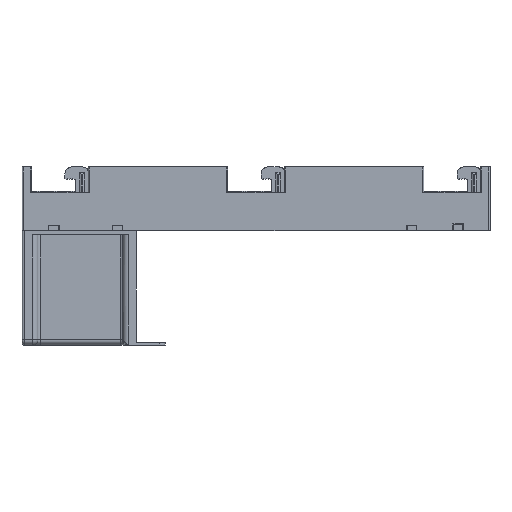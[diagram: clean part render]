
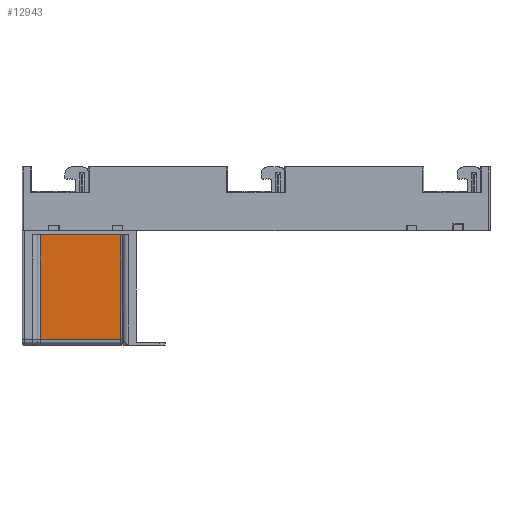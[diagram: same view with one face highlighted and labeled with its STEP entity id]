
A CAD part, left-side view. The second image highlights one B-rep face of the part: STEP entity #12943.
In plain terms, the highlighted planar face has unit normal (-1, 0, 0).
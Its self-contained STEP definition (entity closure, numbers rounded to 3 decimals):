
#157 = FACE_OUTER_BOUND ( 'NONE', #47265, .T. ) ;
#7022 = DIRECTION ( 'NONE',  ( 0., -1., 0. ) ) ;
#8774 = CARTESIAN_POINT ( 'NONE',  ( -129.621, 142.355, 308.5 ) ) ;
#9296 = DIRECTION ( 'NONE',  ( 0., 0., 1. ) ) ;
#9618 = CARTESIAN_POINT ( 'NONE',  ( -129.621, 119.355, 407.5 ) ) ;
#9787 = DIRECTION ( 'NONE',  ( 1., 0., 0. ) ) ;
#12943 = ADVANCED_FACE ( 'NONE', ( #157 ), #38226, .F. ) ;
#17624 = ORIENTED_EDGE ( 'NONE', *, *, #34164, .T. ) ;
#21588 = LINE ( 'NONE', #9618, #43239 ) ;
#24271 = DIRECTION ( 'NONE',  ( 0., -1., 0. ) ) ;
#27803 = AXIS2_PLACEMENT_3D ( 'NONE', #30693, #9787, #24271 ) ;
#29876 = VECTOR ( 'NONE', #36030, 1000. ) ;
#30559 = VERTEX_POINT ( 'NONE', #85680 ) ;
#30612 = DIRECTION ( 'NONE',  ( 0., 0., 1. ) ) ;
#30693 = CARTESIAN_POINT ( 'NONE',  ( -129.621, 142.355, 407.5 ) ) ;
#34164 = EDGE_CURVE ( 'NONE', #80340, #30559, #21588, .T. ) ;
#36030 = DIRECTION ( 'NONE',  ( 0., 1., 0. ) ) ;
#36207 = EDGE_CURVE ( 'NONE', #60649, #51723, #46477, .T. ) ;
#38226 = PLANE ( 'NONE',  #27803 ) ;
#39232 = VECTOR ( 'NONE', #7022, 1000. ) ;
#43239 = VECTOR ( 'NONE', #9296, 1000. ) ;
#46477 = LINE ( 'NONE', #72076, #64977 ) ;
#47265 = EDGE_LOOP ( 'NONE', ( #17624, #53967, #83519, #82645 ) ) ;
#49640 = CARTESIAN_POINT ( 'NONE',  ( -129.621, 195.355, 308.5 ) ) ;
#51171 = EDGE_CURVE ( 'NONE', #51723, #30559, #51285, .T. ) ;
#51285 = LINE ( 'NONE', #54916, #39232 ) ;
#51723 = VERTEX_POINT ( 'NONE', #69619 ) ;
#53967 = ORIENTED_EDGE ( 'NONE', *, *, #51171, .F. ) ;
#54916 = CARTESIAN_POINT ( 'NONE',  ( -129.621, 142.355, 407.5 ) ) ;
#60649 = VERTEX_POINT ( 'NONE', #49640 ) ;
#64977 = VECTOR ( 'NONE', #30612, 1000. ) ;
#69619 = CARTESIAN_POINT ( 'NONE',  ( -129.621, 195.355, 407.5 ) ) ;
#71884 = CARTESIAN_POINT ( 'NONE',  ( -129.621, 119.355, 308.5 ) ) ;
#72076 = CARTESIAN_POINT ( 'NONE',  ( -129.621, 195.355, 407.5 ) ) ;
#73225 = LINE ( 'NONE', #8774, #29876 ) ;
#80340 = VERTEX_POINT ( 'NONE', #71884 ) ;
#82645 = ORIENTED_EDGE ( 'NONE', *, *, #83725, .F. ) ;
#83519 = ORIENTED_EDGE ( 'NONE', *, *, #36207, .F. ) ;
#83725 = EDGE_CURVE ( 'NONE', #80340, #60649, #73225, .T. ) ;
#85680 = CARTESIAN_POINT ( 'NONE',  ( -129.621, 119.355, 407.5 ) ) ;
